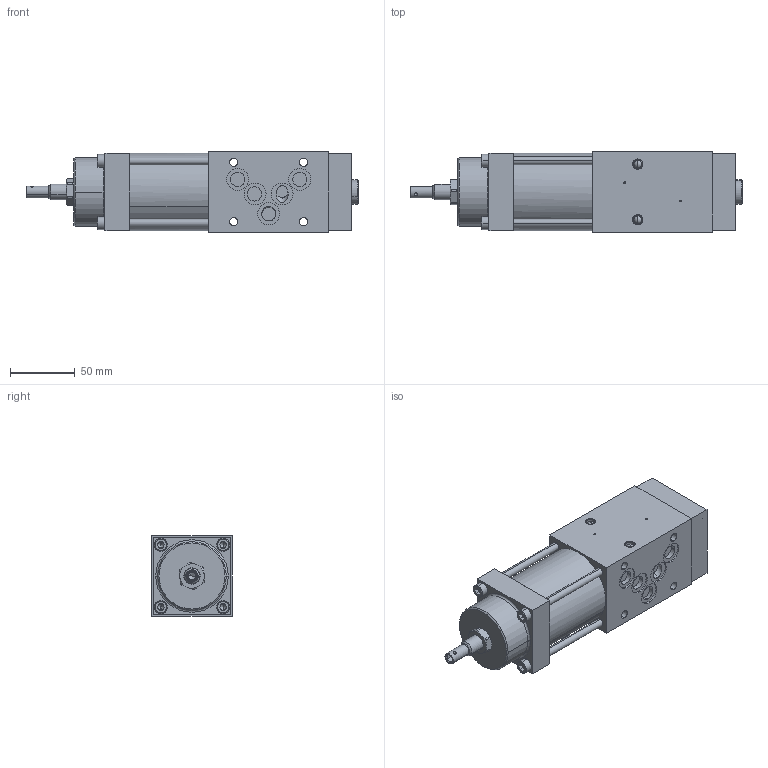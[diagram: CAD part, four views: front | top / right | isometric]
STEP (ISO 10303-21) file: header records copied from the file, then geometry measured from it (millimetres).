
FILE_DESCRIPTION (( 'STEP AP214' ), '1' );
FILE_NAME ('ADRVdB10.STEP', '2017-03-22T13:47:14', ( '' ), ( '' ), 'SwSTEP 2.0', 'SolidWorks 2016', '' );
FILE_SCHEMA (( 'AUTOMOTIVE_DESIGN' ));
Length unit declared in the file: millimetre
Products named in the file (1): ADRVdB10
Bounding box: 256.5 x 62 x 62 mm (x, y, z)
Volume: 712705.5 mm3; surface area: 78678.2 mm2
Topology: 1 solids, 17 shells, 470 faces, 1053 edges, 638 vertices
Faces by surface type: plane 201, cylinder 147, cone 76, torus 38, sphere 8
Entity records: 18126 total; most frequent: CARTESIAN_POINT 2685, DIRECTION 2319, ORIENTED_EDGE 2054, EDGE_CURVE 1027, AXIS2_PLACEMENT_3D 919, VERTEX_POINT 638, EDGE_LOOP 545, LINE 481
